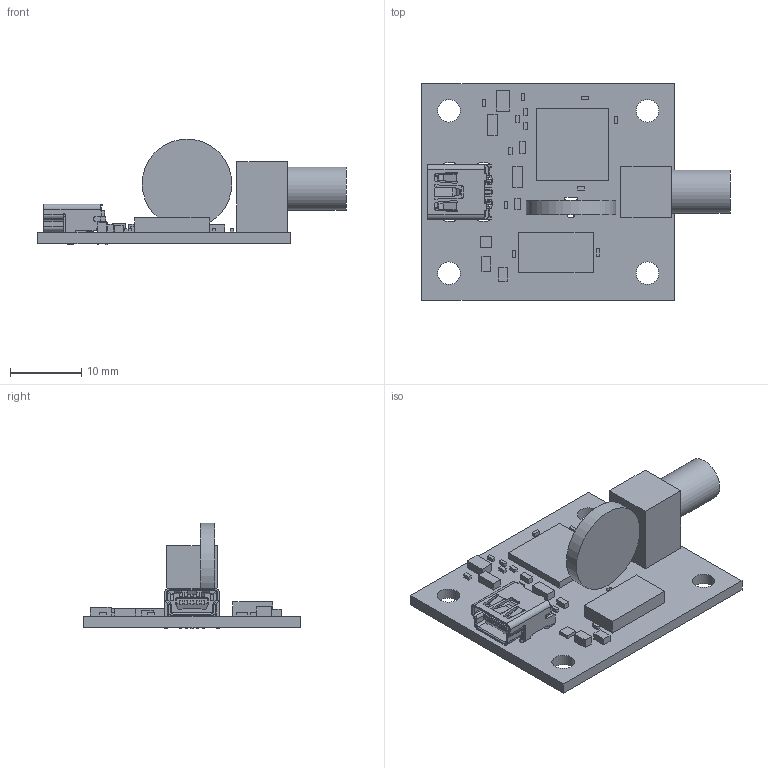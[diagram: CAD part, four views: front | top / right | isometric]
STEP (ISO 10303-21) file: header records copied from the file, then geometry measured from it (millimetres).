
FILE_DESCRIPTION(('Open CASCADE Model'),'2;1');
FILE_NAME('Open CASCADE Shape Model','2010-10-27T12:21:22',('Author'),( 'Open CASCADE'),'Open CASCADE STEP processor 6.2','Open CASCADE 6.2' ,'Unknown');
FILE_SCHEMA(('AUTOMOTIVE_DESIGN { 1 0 10303 214 1 1 1 1 }'));
Length unit declared in the file: millimetre
Products named in the file (56): PCB; Board; C6; 603645840; Extruded; R4; J1; 520908880; Cylinder; U2; 603630096; U1; 603637008; R1; 489472832; R2; 489473088; R3; L2; 603626384; J6; 548190519; Open CASCADE STEP translator 6.2 163.11.1.1; Open CASCADE STEP translator 6.2 163.11.1.2; C10; 603622544; C8; C5; 603631248; C4; C3; C2; C1; L1; U4; 603630352; J2; 603634192; 520908768; C7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
Assembly tree (67 placements, depth 4):
  PCB
    Board
    C6
      603645840
        Extruded
    R4
      603645840
        Extruded
    J1
      520908880
        Cylinder
    U2
      603630096
        Extruded
    U1
      603637008
        Extruded
    R1
      489472832
        Extruded
    R2
      489473088
        Extruded
    R3
      603645840
        Extruded
    L2
      603626384
        Extruded
    J6
      548190519
        Open CASCADE STEP translator 6.2 163.11.1.1
        Open CASCADE STEP translator 6.2 163.11.1.2
    C10
      603622544
        Extruded
    C8
      603645840
        Extruded
    C5
      603631248
        Extruded
    C4
      603645840
        Extruded
    C3
      603645840
        Extruded
    C2
      603645840
        Extruded
    C1
      603645840
        Extruded
    L1
      603645840
        Extruded
    U4
      603630352
        Extruded
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Bounding box: 43.36 x 30.48 x 14.9 mm (x, y, z)
Volume: 3027.7 mm3; surface area: 4550.4 mm2
Topology: 27 solids, 27 shells, 612 faces, 1649 edges, 1094 vertices
Faces by surface type: plane 498, cylinder 88, bspline 18, cone 8
Full cylindrical faces by diameter (mm): 0.8 x5, 1.524 x5, 3.175 x4, 6.096 x1, 12.6 x1
Entity records: 41317 total; most frequent: CARTESIAN_POINT 10929, DIRECTION 5317, LINE 3703, VECTOR 3703, ORIENTED_EDGE 2974, PCURVE 2974, DEFINITIONAL_REPRESENTATION 2974, EDGE_CURVE 1487
